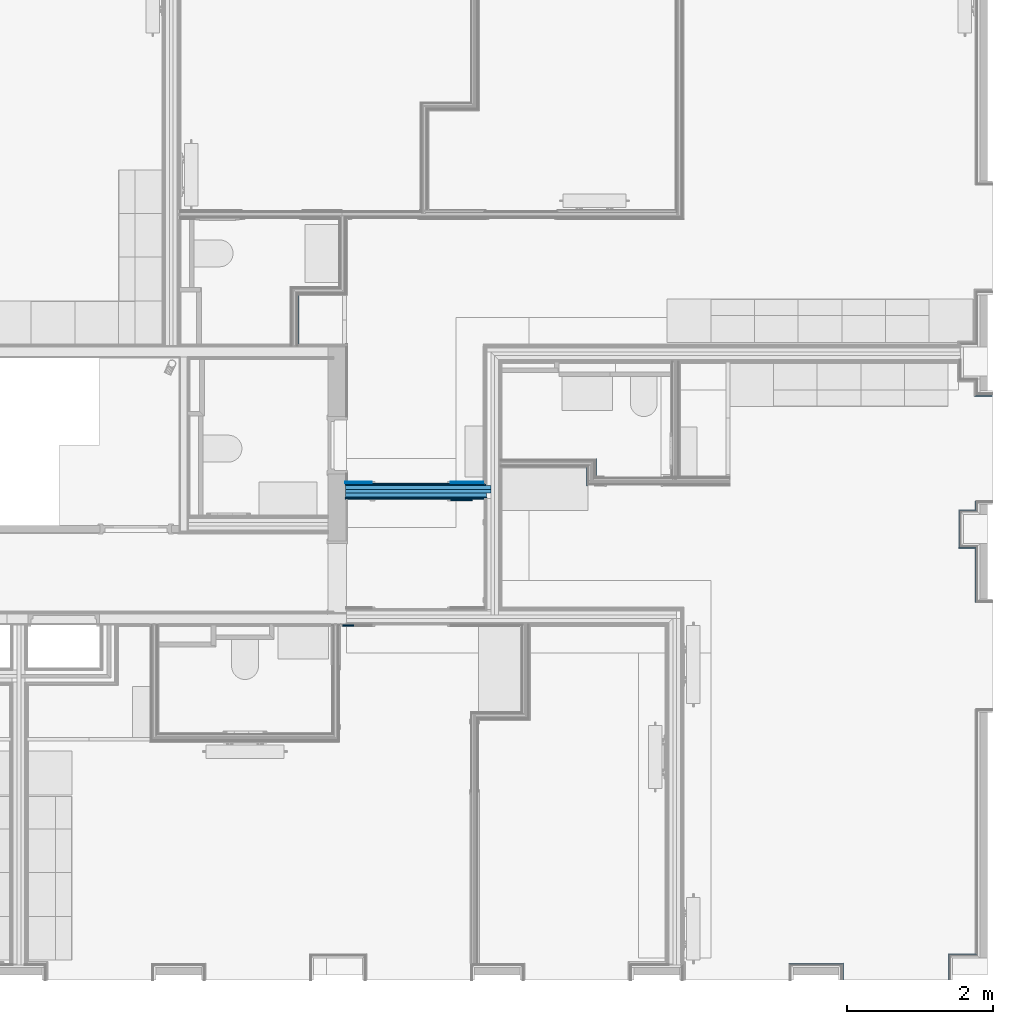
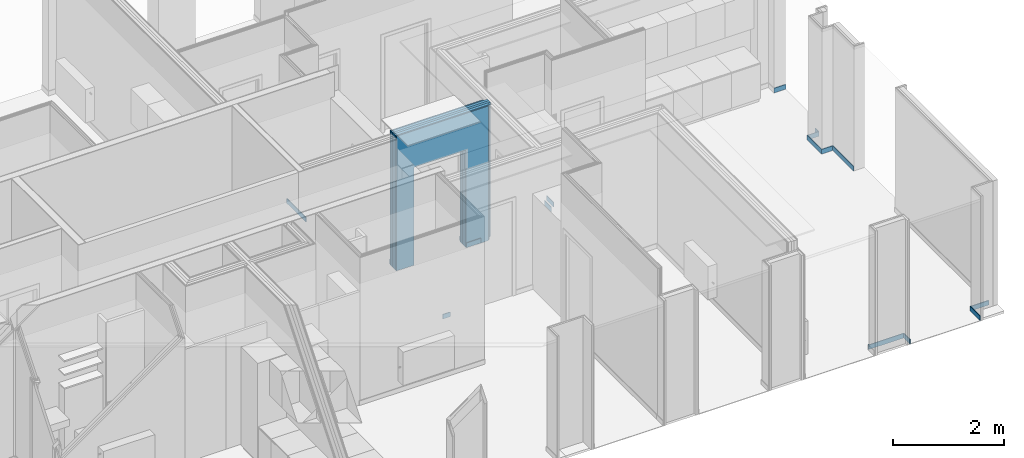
# One storey, part 40 of 65: 23 building element parts, 1 opening, 14 elements without a shape of their own.
"""IFC2X3 building model written with IfcOpenShell, lengths in metres."""

import ifcopenshell
import ifcopenshell.guid

model = None  # the IFC model being written
_history = None  # IfcOwnerHistory: only IFC2X3 demands one
_inside = {}  # id of a spatial element -> (the spatial element, [elements in it])
_under = {}  # id of a project, library or spatial element -> (it, [spatial elements below it])
_declared = {}  # id of a project -> (the project, [libraries it declares])
_typed = {}  # id of a type object -> (the type object, [elements of that type])
_made_of = {}  # id of a material, layer set ... -> (it, [elements and type objects made of it])


def new_model(schema):
    """Start an empty IFC model of exactly this schema.

    Asked for "IFC4X3", IfcOpenShell would pick the latest addendum, in which some entities
    have other attributes; the version numbers below select the first issue.
    IFC2X3 requires an IfcOwnerHistory on every rooted entity: one is made here for all.
    """
    global model, _history
    if schema == "IFC4X3":
        model = ifcopenshell.file(schema_version=(4, 3, 0, 0))
    else:
        model = ifcopenshell.file(schema=schema)
    _inside.clear()
    _under.clear()
    _declared.clear()
    _typed.clear()
    _made_of.clear()
    _history = None
    if model.schema == "IFC2X3":
        org = make("IfcOrganization", Name="unknown")
        user = make(
            "IfcPersonAndOrganization",
            ThePerson=make("IfcPerson", FamilyName="unknown"),
            TheOrganization=org,
        )
        app = make(
            "IfcApplication",
            ApplicationDeveloper=org,
            Version="unknown",
            ApplicationFullName="unknown",
            ApplicationIdentifier="unknown",
        )
        _history = make(
            "IfcOwnerHistory",
            OwningUser=user,
            OwningApplication=app,
            ChangeAction="ADDED",
            CreationDate=0,
        )
    return model


def make(cls, **values):
    """One entity of the class cls with the attributes given. An attribute that is None is left unset."""
    return model.create_entity(
        cls, **{name: value for name, value in values.items() if value is not None}
    )


def entity(cls, *values):
    """Any entity or typed value of the class cls, its attributes in the order of the schema. None: left unset."""
    e = model.create_entity(cls)
    for i, value in enumerate(values):
        if value is not None:
            e[i] = value
    return e


def rooted(cls, **values):
    """An entity with a GlobalId (a new one), such as an element, a storey or a relation."""
    return make(cls, GlobalId=ifcopenshell.guid.new(), OwnerHistory=_history, **values)


def si_unit(unit_type, name, prefix=None):
    """IfcSIUnit, for example si_unit("LENGTHUNIT", "METRE", prefix="MILLI")."""
    return make("IfcSIUnit", UnitType=unit_type, Prefix=prefix, Name=name)


def converted_unit(unit_type, name, factor, base, dimensions=None, offset=None):
    """IfcConversionBasedUnit, such as the inch: factor (a typed value) times the base unit."""
    return make(
        "IfcConversionBasedUnit"
        if offset is None
        else "IfcConversionBasedUnitWithOffset",
        ConversionOffset=offset,
        Dimensions=None
        if dimensions is None
        else entity("IfcDimensionalExponents", *dimensions),
        UnitType=unit_type,
        Name=name,
        ConversionFactor=make(
            "IfcMeasureWithUnit", ValueComponent=factor, UnitComponent=base
        ),
    )


def derived_unit(unit_type, elements):
    """IfcDerivedUnit: a product of units, each with its exponent."""
    return make(
        "IfcDerivedUnit",
        Elements=[
            make("IfcDerivedUnitElement", Unit=unit, Exponent=power)
            for unit, power in elements
        ],
        UnitType=unit_type,
    )


def money_unit(currency):
    """IfcMonetaryUnit."""
    return make("IfcMonetaryUnit", Currency=currency)


def assignment(units):
    """IfcUnitAssignment: the units of a project."""
    return None if units is None else make("IfcUnitAssignment", Units=units)


def point(xyz):
    """IfcCartesianPoint."""
    return None if xyz is None else make("IfcCartesianPoint", Coordinates=xyz)


def direction(xyz):
    """IfcDirection."""
    return None if xyz is None else make("IfcDirection", DirectionRatios=xyz)


def frame(location, z_axis=None, x_axis=None):
    """IfcAxis2Placement3D, a coordinate frame: its origin and axes. An axis left out is left unset."""
    return make(
        "IfcAxis2Placement3D",
        Location=point(location),
        Axis=direction(z_axis),
        RefDirection=direction(x_axis),
    )


def frame_2d(location, x_axis=None):
    """IfcAxis2Placement2D, a coordinate frame in the plane: its origin and x axis."""
    return make(
        "IfcAxis2Placement2D", Location=point(location), RefDirection=direction(x_axis)
    )


def origin_with_axes():
    """The frame at (0, 0, 0) with the z axis (0, 0, 1) and the x axis (1, 0, 0) written out."""
    return frame((0.0, 0.0, 0.0), z_axis=(0.0, 0.0, 1.0), x_axis=(1.0, 0.0, 0.0))


def place(relative_to, where):
    """IfcLocalPlacement: puts the frame where relative to a parent placement (None: the world)."""
    return make(
        "IfcLocalPlacement", PlacementRelTo=relative_to, RelativePlacement=where
    )


def context(
    kind, dimensions, precision=None, world=None, true_north=None, identifier=None
):
    """IfcGeometricRepresentationContext, for example the 3D "Model" context."""
    return make(
        "IfcGeometricRepresentationContext",
        ContextIdentifier=identifier,
        ContextType=kind,
        CoordinateSpaceDimension=dimensions,
        Precision=precision,
        WorldCoordinateSystem=world,
        TrueNorth=true_north,
    )


def subcontext(parent, identifier, kind, view, scale=None):
    """IfcGeometricRepresentationSubContext, for example "Body" below "Model"."""
    return make(
        "IfcGeometricRepresentationSubContext",
        ContextIdentifier=identifier,
        ContextType=kind,
        ParentContext=parent,
        TargetScale=scale,
        TargetView=view,
    )


def project(units=None, contexts=None):
    """IfcProject with its units and contexts."""
    return rooted(
        "IfcProject",
        Name="project",
        RepresentationContexts=contexts,
        UnitsInContext=assignment(units),
    )


def spatial(cls, under=None, at=None, **own):
    """A site, building, storey or space (cls), placed at a placement, below another one or the project."""
    s = rooted(cls, ObjectPlacement=at, **own)
    if under is not None:
        _under.setdefault(under.id(), (under, []))[1].append(s)
    return s


def polyline(points):
    """IfcPolyline through the points."""
    return make("IfcPolyline", Points=[point(p) for p in points])


def profile(cls, at=None, kind="AREA", **sizes):
    """A parametric profile (cls). Its sizes go by their IFC names, for example OverallWidth=200.0."""
    return make(cls, ProfileType=kind, Position=at, **sizes)


def rectangle(**sizes):
    """IfcRectangleProfileDef."""
    return profile("IfcRectangleProfileDef", **sizes)


def outline(outer, holes=None, kind="AREA"):
    """IfcArbitraryClosedProfileDef: a profile drawn as a closed curve; with holes, ...WithVoids."""
    if holes is None:
        return make("IfcArbitraryClosedProfileDef", ProfileType=kind, OuterCurve=outer)
    return make(
        "IfcArbitraryProfileDefWithVoids",
        ProfileType=kind,
        OuterCurve=outer,
        InnerCurves=holes,
    )


def extrude(swept, where, along, depth):
    """IfcExtrudedAreaSolid: the profile swept, set in the frame where, extruded along a direction by depth."""
    return make(
        "IfcExtrudedAreaSolid",
        SweptArea=swept,
        Position=where,
        ExtrudedDirection=direction(along),
        Depth=depth,
    )


def shape(context_of_items, identifier, shape_type, items):
    """IfcShapeRepresentation: the items that make up one representation, for example the "Body"."""
    return make(
        "IfcShapeRepresentation",
        ContextOfItems=context_of_items,
        RepresentationIdentifier=identifier,
        RepresentationType=shape_type,
        Items=items,
    )


def material(Name=None, Category=None):
    """IfcMaterial."""
    return make("IfcMaterial", Name=Name, Category=Category)


def made_of(thing, what):
    """Note that an element or type object is made of a material, layer set ...; save() writes the relation."""
    if what is not None:
        _made_of.setdefault(what.id(), (what, []))[1].append(thing)
    return thing


def type_object(cls, material=None, **own):
    """A type object (cls), such as IfcWallType, which elements share."""
    return made_of(rooted(cls, **own), material)


def element(
    cls,
    number,
    at=None,
    inside=None,
    cuts=None,
    type_object=None,
    material=None,
    context=None,
    identifier="Body",
    shape_type=None,
    held_by="IfcProductDefinitionShape",
    body=None,
    shapes=None,
    **own,
):
    """One element of the class cls, such as IfcWall. Its Tag is "e" and its number.

    at: its placement. inside: the storey or other place that contains it. cuts: it is an
    opening in that element (IfcRelVoidsElement). A single representation is given by context,
    identifier, shape_type and body (its items); several are given by shapes. held_by: the class
    of the entity that holds the representations. save() writes the other relations.
    """
    e = rooted(cls, Tag="e%d" % number, ObjectPlacement=at, **own)
    if body is not None:
        shapes = [shape(context, identifier, shape_type, body)]
    if shapes is not None:
        e.Representation = make(held_by, Representations=shapes)
    if inside is not None:
        _inside.setdefault(inside.id(), (inside, []))[1].append(e)
    if cuts is not None:
        rooted(
            "IfcRelVoidsElement", RelatingBuildingElement=cuts, RelatedOpeningElement=e
        )
    if type_object is not None:
        _typed.setdefault(type_object.id(), (type_object, []))[1].append(e)
    return made_of(e, material)


def aggregate(whole, parts):
    """IfcRelAggregates: a whole, such as a stair, and the parts it consists of."""
    return rooted("IfcRelAggregates", RelatingObject=whole, RelatedObjects=parts)


def save(model, path):
    """Write the relations noted so far, then the file.

    IfcRelAggregates (storeys below a building ...), IfcRelContainedInSpatialStructure (elements
    in a storey), IfcRelDefinesByType, IfcRelAssociatesMaterial and IfcRelDeclares: one each for
    every whole, place, type object, material and project.
    """
    for whole, parts in _under.values():
        aggregate(whole, parts)
    for where, things in _inside.values():
        rooted(
            "IfcRelContainedInSpatialStructure",
            RelatedElements=things,
            RelatingStructure=where,
        )
    for kind, things in _typed.values():
        rooted("IfcRelDefinesByType", RelatedObjects=things, RelatingType=kind)
    for what, things in _made_of.values():
        rooted("IfcRelAssociatesMaterial", RelatedObjects=things, RelatingMaterial=what)
    for by, libraries in _declared.values():
        rooted("IfcRelDeclares", RelatingContext=by, RelatedDefinitions=libraries)
    model.write(path)


model = new_model("IFC2X3")

# Units and contexts
model_context = context("Model", 3, precision=1e-05, world=origin_with_axes(), true_north=direction((0.0, 1.0)))
body_context = subcontext(model_context, "Body", "Model", "MODEL_VIEW", scale=1.0)
ifc_project = project(units=[si_unit("LENGTHUNIT", "METRE"), si_unit("AREAUNIT", "SQUARE_METRE"), si_unit("VOLUMEUNIT", "CUBIC_METRE"), si_unit("ABSORBEDDOSEUNIT", "GRAY"), si_unit("AMOUNTOFSUBSTANCEUNIT", "MOLE"), si_unit("DOSEEQUIVALENTUNIT", "SIEVERT"), si_unit("ELECTRICCAPACITANCEUNIT", "FARAD"), si_unit("ELECTRICCHARGEUNIT", "COULOMB"), si_unit("ELECTRICCONDUCTANCEUNIT", "SIEMENS"), si_unit("ELECTRICCURRENTUNIT", "AMPERE"), si_unit("ELECTRICRESISTANCEUNIT", "OHM"), si_unit("ELECTRICVOLTAGEUNIT", "VOLT"), si_unit("ENERGYUNIT", "JOULE"), si_unit("FORCEUNIT", "NEWTON"), si_unit("FREQUENCYUNIT", "HERTZ"), si_unit("ILLUMINANCEUNIT", "LUX"), si_unit("INDUCTANCEUNIT", "HENRY"), si_unit("LUMINOUSFLUXUNIT", "LUMEN"), si_unit("LUMINOUSINTENSITYUNIT", "CANDELA"), si_unit("MAGNETICFLUXDENSITYUNIT", "TESLA"), si_unit("MAGNETICFLUXUNIT", "WEBER"), si_unit("MASSUNIT", "GRAM"), converted_unit("PLANEANGLEUNIT", "degree", entity("IfcReal", 0.0174532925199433), si_unit("PLANEANGLEUNIT", "RADIAN"), dimensions=[0, 0, 0, 0, 0, 0, 0]), si_unit("POWERUNIT", "WATT"), si_unit("PRESSUREUNIT", "PASCAL"), si_unit("RADIOACTIVITYUNIT", "BECQUEREL"), si_unit("SOLIDANGLEUNIT", "STERADIAN"), si_unit("THERMODYNAMICTEMPERATUREUNIT", "KELVIN"), si_unit("TIMEUNIT", "SECOND"), derived_unit("ACCELERATIONUNIT", [(si_unit("LENGTHUNIT", "METRE"), 1), (si_unit("TIMEUNIT", "SECOND"), -2)]), derived_unit("ANGULARVELOCITYUNIT", [(converted_unit("PLANEANGLEUNIT", "degree", entity("IfcReal", 0.0174532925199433), si_unit("PLANEANGLEUNIT", "RADIAN"), dimensions=[0, 0, 0, 0, 0, 0, 0]), 1), (si_unit("TIMEUNIT", "SECOND"), -1)]), derived_unit("CURVATUREUNIT", [(converted_unit("PLANEANGLEUNIT", "degree", entity("IfcReal", 0.0174532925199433), si_unit("PLANEANGLEUNIT", "RADIAN"), dimensions=[0, 0, 0, 0, 0, 0, 0]), 1), (si_unit("LENGTHUNIT", "METRE"), -1)]), derived_unit("DYNAMICVISCOSITYUNIT", [(si_unit("PRESSUREUNIT", "PASCAL"), 1), (si_unit("TIMEUNIT", "SECOND"), 1)]), derived_unit("HEATFLUXDENSITYUNIT", [(si_unit("POWERUNIT", "WATT"), 1), (si_unit("LENGTHUNIT", "METRE"), -2)]), derived_unit("HEATINGVALUEUNIT", [(si_unit("ENERGYUNIT", "JOULE"), 1), (si_unit("MASSUNIT", "GRAM"), -1)]), derived_unit("INTEGERCOUNTRATEUNIT", [(si_unit("TIMEUNIT", "SECOND"), -1)]), derived_unit("IONCONCENTRATIONUNIT", [(si_unit("MASSUNIT", "GRAM"), 1), (si_unit("VOLUMEUNIT", "CUBIC_METRE"), -1)]), derived_unit("ISOTHERMALMOISTURECAPACITYUNIT", [(si_unit("VOLUMEUNIT", "CUBIC_METRE"), 1), (si_unit("MASSUNIT", "GRAM"), -1)]), derived_unit("KINEMATICVISCOSITYUNIT", [(si_unit("AREAUNIT", "SQUARE_METRE"), 1), (si_unit("TIMEUNIT", "SECOND"), -1)]), derived_unit("LINEARFORCEUNIT", [(si_unit("FORCEUNIT", "NEWTON"), 1), (si_unit("LENGTHUNIT", "METRE"), -1)]), derived_unit("LINEARMOMENTUNIT", [(si_unit("FORCEUNIT", "NEWTON"), 1), (si_unit("LENGTHUNIT", "METRE"), -1)]), derived_unit("LINEARSTIFFNESSUNIT", [(si_unit("FORCEUNIT", "NEWTON"), 1), (si_unit("LENGTHUNIT", "METRE"), -1)]), derived_unit("LINEARVELOCITYUNIT", [(si_unit("LENGTHUNIT", "METRE"), 1), (si_unit("TIMEUNIT", "SECOND"), -1)]), derived_unit("LUMINOUSINTENSITYDISTRIBUTIONUNIT", [(si_unit("LUMINOUSINTENSITYUNIT", "CANDELA"), 1), (si_unit("LUMINOUSFLUXUNIT", "LUMEN"), -1)]), derived_unit("MASSDENSITYUNIT", [(si_unit("MASSUNIT", "GRAM"), 1), (si_unit("VOLUMEUNIT", "CUBIC_METRE"), -1)]), derived_unit("MASSFLOWRATEUNIT", [(si_unit("MASSUNIT", "GRAM"), 1), (si_unit("TIMEUNIT", "SECOND"), -1)]), derived_unit("MASSPERLENGTHUNIT", [(si_unit("MASSUNIT", "GRAM"), 1), (si_unit("LENGTHUNIT", "METRE"), -1)]), derived_unit("MODULUSOFELASTICITYUNIT", [(si_unit("FORCEUNIT", "NEWTON"), 1), (si_unit("AREAUNIT", "SQUARE_METRE"), -1)]), derived_unit("MODULUSOFLINEARSUBGRADEREACTIONUNIT", [(si_unit("FORCEUNIT", "NEWTON"), 1), (si_unit("LENGTHUNIT", "METRE"), -2)]), derived_unit("MODULUSOFROTATIONALSUBGRADEREACTIONUNIT", [(si_unit("FORCEUNIT", "NEWTON"), 1), (si_unit("LENGTHUNIT", "METRE"), 1)]), derived_unit("MODULUSOFSUBGRADEREACTIONUNIT", [(si_unit("FORCEUNIT", "NEWTON"), 1), (si_unit("VOLUMEUNIT", "CUBIC_METRE"), -1)]), derived_unit("MOISTUREDIFFUSIVITYUNIT", [(si_unit("VOLUMEUNIT", "CUBIC_METRE"), 1), (si_unit("TIMEUNIT", "SECOND"), -1)]), derived_unit("MOLECULARWEIGHTUNIT", [(si_unit("MASSUNIT", "GRAM"), 1), (si_unit("AMOUNTOFSUBSTANCEUNIT", "MOLE"), -1)]), derived_unit("PLANARFORCEUNIT", [(si_unit("FORCEUNIT", "NEWTON"), 1), (si_unit("LENGTHUNIT", "METRE"), -2)]), derived_unit("ROTATIONALFREQUENCYUNIT", [(si_unit("TIMEUNIT", "SECOND"), -1)]), derived_unit("ROTATIONALMASSUNIT", [(si_unit("MASSUNIT", "GRAM"), 1), (si_unit("LENGTHUNIT", "METRE"), 2)]), derived_unit("ROTATIONALSTIFFNESSUNIT", [(si_unit("FORCEUNIT", "NEWTON"), 1), (si_unit("LENGTHUNIT", "METRE"), 1), (converted_unit("PLANEANGLEUNIT", "degree", entity("IfcReal", 0.0174532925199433), si_unit("PLANEANGLEUNIT", "RADIAN"), dimensions=[0, 0, 0, 0, 0, 0, 0]), -1)]), derived_unit("SECTIONAREAINTEGRALUNIT", [(si_unit("LENGTHUNIT", "METRE"), 5)]), derived_unit("SECTIONMODULUSUNIT", [(si_unit("LENGTHUNIT", "METRE"), 3)]), derived_unit("SHEARMODULUSUNIT", [(si_unit("FORCEUNIT", "NEWTON"), 1), (si_unit("AREAUNIT", "SQUARE_METRE"), -1)]), derived_unit("SOUNDPOWERUNIT", [(si_unit("ENERGYUNIT", "JOULE"), 1), (si_unit("TIMEUNIT", "SECOND"), -1)]), derived_unit("SPECIFICHEATCAPACITYUNIT", [(si_unit("FORCEUNIT", "NEWTON"), 1), (si_unit("MASSUNIT", "GRAM"), -1), (si_unit("THERMODYNAMICTEMPERATUREUNIT", "KELVIN"), -1)]), derived_unit("TEMPERATUREGRADIENTUNIT", [(si_unit("THERMODYNAMICTEMPERATUREUNIT", "KELVIN"), 1), (si_unit("LENGTHUNIT", "METRE"), -1)]), derived_unit("THERMALADMITTANCEUNIT", [(si_unit("POWERUNIT", "WATT"), 1), (si_unit("AREAUNIT", "SQUARE_METRE"), -1), (si_unit("THERMODYNAMICTEMPERATUREUNIT", "KELVIN"), -1)]), derived_unit("THERMALCONDUCTANCEUNIT", [(si_unit("POWERUNIT", "WATT"), 1), (si_unit("LENGTHUNIT", "METRE"), -1), (si_unit("THERMODYNAMICTEMPERATUREUNIT", "KELVIN"), -1)]), derived_unit("THERMALEXPANSIONCOEFFICIENTUNIT", [(si_unit("THERMODYNAMICTEMPERATUREUNIT", "KELVIN"), -1)]), derived_unit("THERMALRESISTANCEUNIT", [(si_unit("AREAUNIT", "SQUARE_METRE"), 1), (si_unit("POWERUNIT", "WATT"), -1)]), derived_unit("THERMALTRANSMITTANCEUNIT", [(si_unit("POWERUNIT", "WATT"), 1), (si_unit("AREAUNIT", "SQUARE_METRE"), -1), (si_unit("THERMODYNAMICTEMPERATUREUNIT", "KELVIN"), -1)]), derived_unit("TORQUEUNIT", [(si_unit("FORCEUNIT", "NEWTON"), 1), (si_unit("LENGTHUNIT", "METRE"), 1)]), derived_unit("VAPORPERMEABILITYUNIT", [(si_unit("MASSUNIT", "GRAM"), 1), (si_unit("TIMEUNIT", "SECOND"), -1)]), derived_unit("VOLUMETRICFLOWRATEUNIT", [(si_unit("VOLUMEUNIT", "CUBIC_METRE"), 1), (si_unit("TIMEUNIT", "SECOND"), -1)]), derived_unit("WARPINGCONSTANTUNIT", [(si_unit("LENGTHUNIT", "METRE"), 6)]), derived_unit("WARPINGMOMENTUNIT", [(si_unit("FORCEUNIT", "NEWTON"), 1), (si_unit("LENGTHUNIT", "METRE"), 2)]), money_unit("GBP")], contexts=[model_context])

# Site, building, storey
site_placement = place(None, origin_with_axes())
site = spatial("IfcSite", under=ifc_project, at=site_placement, Name="Site", CompositionType="ELEMENT")
building_placement = place(site_placement, origin_with_axes())
building = spatial("IfcBuilding", under=site, at=building_placement, Name="Building01", CompositionType="ELEMENT")
storey_placement = place(building_placement, frame((0.0, 0.0, 8.64), z_axis=(0.0, 0.0, 1.0), x_axis=(1.0, 0.0, 0.0)))
storey = spatial("IfcBuildingStorey", under=building, at=storey_placement, Name="2F", CompositionType="ELEMENT", Elevation=8.64)

# Wall, building element part
wall_type_1 = type_object("IfcWallType", Name="SHE_A-Walls_Type06d_ExternalWallInsulation_48mm", PredefinedType="NOTDEFINED")
wall_1_placement = place(storey_placement, frame((24.143, 0.27, 0.0), z_axis=(0.0, 0.0, 1.0), x_axis=(1.0, 0.0, 0.0)))
wall_1 = element("IfcWall", 1, at=wall_1_placement, inside=storey, type_object=wall_type_1, Name="6D", ObjectType="SHE_A-Walls_Type06d_ExternalWallInsulation_48mm")
ifc_material_1 = material(Name="A_BSUK_Walls_Timber")
building_element_part_1_placement = place(wall_1_placement, origin_with_axes())
building_element_part_1 = element("IfcBuildingElementPart", 2, at=building_element_part_1_placement, material=ifc_material_1, Name="3", context=body_context, shape_type="SweptSolid", body=[
    extrude(outline(polyline([(0.687, 0.063), (-0.063, 0.063), (-0.048, 0.048), (0.672, 0.048), (0.687, 0.063)])), frame((0.0, 0.0, 0.015), z_axis=(0.0, 0.0, 1.0), x_axis=(1.0, 0.0, 0.0)), (0.0, 0.0, 1.0), 0.1),
])
aggregate(wall_1, [building_element_part_1])

wall_2_placement = place(storey_placement, frame((24.767, 0.27, 0.0), z_axis=(0.0, 0.0, 1.0), x_axis=(0.0, -1.0, 0.0)))
wall_2 = element("IfcWall", 3, at=wall_2_placement, inside=storey, type_object=wall_type_1, Name="6D", ObjectType="SHE_A-Walls_Type06d_ExternalWallInsulation_48mm")
building_element_part_2_placement = place(wall_2_placement, origin_with_axes())
building_element_part_2 = element("IfcBuildingElementPart", 4, at=building_element_part_2_placement, material=ifc_material_1, Name="3", context=body_context, shape_type="SweptSolid", body=[
    extrude(outline(polyline([(-0.063, 0.063), (-0.048, 0.048), (0.17, 0.048), (0.17, 0.063), (-0.063, 0.063)])), frame((0.0, 0.0, 0.015), z_axis=(0.0, 0.0, 1.0), x_axis=(1.0, 0.0, 0.0)), (0.0, 0.0, 1.0), 0.1),
])
aggregate(wall_2, [building_element_part_2])

wall_3_placement = place(storey_placement, frame((26.333, 0.1, 0.0), z_axis=(0.0, 0.0, 1.0), x_axis=(0.0, 1.0, 0.0)))
wall_3 = element("IfcWall", 5, at=wall_3_placement, inside=storey, type_object=wall_type_1, Name="6D", ObjectType="SHE_A-Walls_Type06d_ExternalWallInsulation_48mm")
building_element_part_3_placement = place(wall_3_placement, origin_with_axes())
building_element_part_3 = element("IfcBuildingElementPart", 6, at=building_element_part_3_placement, material=ifc_material_1, Name="3", context=body_context, shape_type="SweptSolid", body=[
    extrude(outline(polyline([(0.363, 0.063), (0.0, 0.063), (0.0, 0.048), (0.348, 0.048), (0.363, 0.063)])), frame((0.0, 0.0, 0.015), z_axis=(0.0, 0.0, 1.0), x_axis=(1.0, 0.0, 0.0)), (0.0, 0.0, 1.0), 0.1),
])
aggregate(wall_3, [building_element_part_3])

wall_4_placement = place(storey_placement, frame((26.333, 0.4, 0.0), z_axis=(0.0, 0.0, 1.0), x_axis=(1.0, 0.0, 0.0)))
wall_4 = element("IfcWall", 7, at=wall_4_placement, inside=storey, type_object=wall_type_1, Name="6D", ObjectType="SHE_A-Walls_Type06d_ExternalWallInsulation_48mm")
building_element_part_4_placement = place(wall_4_placement, origin_with_axes())
building_element_part_4 = element("IfcBuildingElementPart", 8, at=building_element_part_4_placement, material=ifc_material_1, Name="3", context=body_context, shape_type="SweptSolid", body=[
    extrude(outline(polyline([(0.314, 0.063), (-0.063, 0.063), (-0.048, 0.048), (0.329, 0.048), (0.314, 0.063)])), frame((0.0, 0.0, 0.015), z_axis=(0.0, 0.0, 1.0), x_axis=(1.0, 0.0, 0.0)), (0.0, 0.0, 1.0), 0.1),
])
aggregate(wall_4, [building_element_part_4])

wall_5_placement = place(storey_placement, frame((26.71, 5.34018, 0.0), z_axis=(0.0, 0.0, 1.0), x_axis=(0.0, 1.0, 0.0)))
wall_5 = element("IfcWall", 9, at=wall_5_placement, inside=storey, type_object=wall_type_1, Name="6D", ObjectType="SHE_A-Walls_Type06d_ExternalWallInsulation_48mm")
building_element_part_5_placement = place(wall_5_placement, origin_with_axes())
building_element_part_5 = element("IfcBuildingElementPart", 10, at=building_element_part_5_placement, material=ifc_material_1, Name="3", context=body_context, shape_type="SweptSolid", body=[
    extrude(outline(polyline([(0.69682, 0.063), (-0.048, 0.063), (-0.048, 0.048), (0.71182, 0.048), (0.69682, 0.063)])), frame((0.0, 0.0, 0.015), z_axis=(0.0, 0.0, 1.0), x_axis=(1.0, 0.0, 0.0)), (0.0, 0.0, 1.0), 0.1),
])
aggregate(wall_5, [building_element_part_5])

wall_6_placement = place(storey_placement, frame((26.71, 6.1, 0.0), z_axis=(0.0, 0.0, 1.0), x_axis=(-1.0, 0.0, 0.0)))
wall_6 = element("IfcWall", 11, at=wall_6_placement, inside=storey, type_object=wall_type_1, Name="6D", ObjectType="SHE_A-Walls_Type06d_ExternalWallInsulation_48mm")
building_element_part_6_placement = place(wall_6_placement, origin_with_axes())
building_element_part_6 = element("IfcBuildingElementPart", 12, at=building_element_part_6_placement, material=ifc_material_1, Name="3", context=body_context, shape_type="SweptSolid", body=[
    extrude(outline(polyline([(0.293, 0.063), (0.063, 0.063), (0.048, 0.048), (0.278, 0.048), (0.293, 0.063)])), frame((0.0, 0.0, 0.015), z_axis=(0.0, 0.0, 1.0), x_axis=(1.0, 0.0, 0.0)), (0.0, 0.0, 1.0), 0.1),
])
aggregate(wall_6, [building_element_part_6])

wall_7_placement = place(storey_placement, frame((26.48, 6.1, 0.0), z_axis=(0.0, 0.0, 1.0), x_axis=(0.0, 1.0, 0.0)))
wall_7 = element("IfcWall", 13, at=wall_7_placement, inside=storey, type_object=wall_type_1, Name="6D", ObjectType="SHE_A-Walls_Type06d_ExternalWallInsulation_48mm")
building_element_part_7_placement = place(wall_7_placement, origin_with_axes())
building_element_part_7 = element("IfcBuildingElementPart", 14, at=building_element_part_7_placement, material=ifc_material_1, Name="3", context=body_context, shape_type="SweptSolid", body=[
    extrude(outline(polyline([(0.463, 0.063), (-0.063, 0.063), (-0.048, 0.048), (0.448, 0.048), (0.463, 0.063)])), frame((0.0, 0.0, 0.015), z_axis=(0.0, 0.0, 1.0), x_axis=(1.0, 0.0, 0.0)), (0.0, 0.0, 1.0), 0.1),
])
aggregate(wall_7, [building_element_part_7])

wall_8_placement = place(storey_placement, frame((26.48, 6.5, 0.0), z_axis=(0.0, 0.0, 1.0), x_axis=(1.0, 0.0, 0.0)))
wall_8 = element("IfcWall", 15, at=wall_8_placement, inside=storey, type_object=wall_type_1, Name="6D", ObjectType="SHE_A-Walls_Type06d_ExternalWallInsulation_48mm")
building_element_part_8_placement = place(wall_8_placement, origin_with_axes())
building_element_part_8 = element("IfcBuildingElementPart", 16, at=building_element_part_8_placement, material=ifc_material_1, Name="3", context=body_context, shape_type="SweptSolid", body=[
    extrude(outline(polyline([(0.167, 0.063), (-0.063, 0.063), (-0.048, 0.048), (0.182, 0.048), (0.167, 0.063)])), frame((0.0, 0.0, 0.015), z_axis=(0.0, 0.0, 1.0), x_axis=(1.0, 0.0, 0.0)), (0.0, 0.0, 1.0), 0.1),
])
aggregate(wall_8, [building_element_part_8])

wall_9_placement = place(storey_placement, frame((26.71, 6.5, 0.0), z_axis=(0.0, 0.0, 1.0), x_axis=(0.0, 1.0, 0.0)))
wall_9 = element("IfcWall", 17, at=wall_9_placement, inside=storey, type_object=wall_type_1, Name="6D", ObjectType="SHE_A-Walls_Type06d_ExternalWallInsulation_48mm")
building_element_part_9_placement = place(wall_9_placement, origin_with_axes())
building_element_part_9 = element("IfcBuildingElementPart", 18, at=building_element_part_9_placement, material=ifc_material_1, Name="3", context=body_context, shape_type="SweptSolid", body=[
    extrude(outline(polyline([(0.063, 0.063), (0.048, 0.048), (0.182326, 0.048), (0.182326, 0.063), (0.063, 0.063)])), frame((0.0, 0.0, 0.015), z_axis=(0.0, 0.0, 1.0), x_axis=(1.0, 0.0, 0.0)), (0.0, 0.0, 1.0), 0.1),
])
aggregate(wall_9, [building_element_part_9])

wall_type_2 = type_object("IfcWallType", Name="SHE_A-Walls_Type05a_Partition_95mm_tall", PredefinedType="NOTDEFINED")
wall_10_placement = place(storey_placement, frame((17.273132, 8.82, 0.0), z_axis=(0.0, 0.0, 1.0), x_axis=(0.0, 1.0, 0.0)))
wall_10 = element("IfcWall", 19, at=wall_10_placement, inside=storey, type_object=wall_type_2, Name="5A", ObjectType="SHE_A-Walls_Type05a_Partition_95mm_tall")
building_element_part_10_placement = place(wall_10_placement, origin_with_axes())
building_element_part_10 = element("IfcBuildingElementPart", 20, at=building_element_part_10_placement, material=ifc_material_1, Name="1", context=body_context, shape_type="SweptSolid", body=[
    extrude(outline(polyline([(0.705, -0.06), (0.0, -0.06), (0.0, -0.075), (0.69, -0.075), (0.705, -0.06)])), frame((0.0, 0.0, 0.015), z_axis=(0.0, 0.0, 1.0), x_axis=(1.0, 0.0, 0.0)), (0.0, 0.0, 1.0), 0.1),
])
aggregate(wall_10, [building_element_part_10])

# Wall, opening, building element parts
wall_type_3 = type_object("IfcWallType", Name="SHE_A-Walls_Type01c_Partywall_225mm_twin_tall", PredefinedType="NOTDEFINED")
wall_11_placement = place(storey_placement, frame((17.985, 6.793, 0.0), z_axis=(0.0, 0.0, 1.0), x_axis=(1.0, 0.0, 0.0)))
wall_11 = element("IfcWall", 21, at=wall_11_placement, inside=storey, type_object=wall_type_3, Name="1C", ObjectType="SHE_A-Walls_Type01c_Partywall_225mm_twin_tall")
opening_placement = place(wall_11_placement, frame((0.368, -0.103, -0.03), z_axis=(0.0, 0.0, 1.0), x_axis=(1.0, 0.0, 0.0)))
element("IfcOpeningElement", 22, at=opening_placement, cuts=wall_11, Name="Opening", ObjectType="Opening", context=body_context, shape_type="SweptSolid", body=[
    extrude(rectangle(XDim=2.142, YDim=1.081, at=frame_2d((-0.5405, 1.071), x_axis=(0.0, -1.0))), frame((0.0, 0.0, 0.0), z_axis=(0.0, 1.0, 0.0), x_axis=(-1.0, 0.0, 0.0)), (0.0, 0.0, 1.0), 0.255),
    extrude(rectangle(XDim=1.084, YDim=2.172, at=frame_2d((-0.539, 1.086), x_axis=(1.0, 0.0))), frame((0.0, 0.015, 0.0), z_axis=(0.0, 1.0, 0.0), x_axis=(-1.0, 0.0, 0.0)), (0.0, 0.0, 1.0), 0.015),
    extrude(rectangle(XDim=2.142, YDim=1.084, at=frame_2d((-0.542, 1.071), x_axis=(0.0, -1.0))), frame((0.0, 0.0, 0.0), z_axis=(0.0, 1.0, 0.0), x_axis=(-1.0, 0.0, 0.0)), (0.0, 0.0, 1.0), 0.015),
    extrude(outline(polyline([(0.0, 0.03), (0.003, 0.03), (0.003, 2.172), (-1.081, 2.172), (-1.081, 2.142), (-1.084, 2.142), (-1.084, 0.0), (0.0, 0.0), (0.0, 0.03)])), frame((0.0, 0.03, 0.0), z_axis=(0.0, 1.0, 0.0), x_axis=(-1.0, 0.0, 0.0)), (0.0, 0.0, 1.0), 0.015),
    extrude(outline(polyline([(0.0, 0.03), (0.003, 0.03), (0.003, 2.172), (-1.081, 2.172), (-1.081, 2.142), (-1.084, 2.142), (-1.084, 0.0), (0.0, 0.0), (0.0, 0.03)])), frame((0.0, 0.045, 0.0), z_axis=(0.0, 1.0, 0.0), x_axis=(-1.0, 0.0, 0.0)), (0.0, 0.0, 1.0), 0.058),
    extrude(outline(polyline([(0.0, 0.03), (0.003, 0.03), (0.003, 2.172), (-1.081, 2.172), (-1.081, 2.142), (-1.084, 2.142), (-1.084, 0.0), (0.0, 0.0), (0.0, 0.03)])), frame((0.0, 0.103, 0.0), z_axis=(0.0, 1.0, 0.0), x_axis=(-1.0, 0.0, 0.0)), (0.0, 0.0, 1.0), 0.05),
    extrude(outline(polyline([(0.0, 0.03), (0.003, 0.03), (0.003, 2.172), (-1.081, 2.172), (-1.081, 2.142), (-1.084, 2.142), (-1.084, 0.0), (0.0, 0.0), (0.0, 0.03)])), frame((0.0, 0.153, 0.0), z_axis=(0.0, 1.0, 0.0), x_axis=(-1.0, 0.0, 0.0)), (0.0, 0.0, 1.0), 0.057),
    extrude(outline(polyline([(0.0, 0.03), (0.003, 0.03), (0.003, 2.172), (-1.081, 2.172), (-1.081, 2.142), (-1.084, 2.142), (-1.084, 0.0), (0.0, 0.0), (0.0, 0.03)])), frame((0.0, 0.21, 0.0), z_axis=(0.0, 1.0, 0.0), x_axis=(-1.0, 0.0, 0.0)), (0.0, 0.0, 1.0), 0.015),
    extrude(rectangle(XDim=1.084, YDim=2.172, at=frame_2d((-0.539, 1.086), x_axis=(1.0, 0.0))), frame((0.0, 0.225, 0.0), z_axis=(0.0, 1.0, 0.0), x_axis=(-1.0, 0.0, 0.0)), (0.0, 0.0, 1.0), 0.015),
    extrude(outline(polyline([(0.0, 0.03), (0.003, 0.03), (0.003, 2.172), (-1.081, 2.172), (-1.081, 2.142), (-1.084, 2.142), (-1.084, 0.0), (0.0, 0.0), (0.0, 0.03)])), frame((0.0, 0.24, 0.0), z_axis=(0.0, 1.0, 0.0), x_axis=(-1.0, 0.0, 0.0)), (0.0, 0.0, 1.0), 0.015),
])
placement_1 = place(wall_11_placement, origin_with_axes())
building_element_part_11 = element("IfcBuildingElementPart", 23, at=placement_1, material=ifc_material_1, Name="1", context=body_context, shape_type="SweptSolid", body=[
    extrude(rectangle(XDim=0.401969, YDim=0.015, at=frame_2d((1.544984, -0.0955), x_axis=(-1.0, 0.0))), frame((0.0, 0.0, 0.015), z_axis=(0.0, 0.0, 1.0), x_axis=(1.0, 0.0, 0.0)), (0.0, 0.0, 1.0), 0.1),
])
ifc_material_2 = material(Name="A_BSUK_WallInternal_Finishes_Plasterboard")
building_element_part_12 = element("IfcBuildingElementPart", 24, at=placement_1, material=ifc_material_2, Name="2", context=body_context, shape_type="SweptSolid", body=[
    extrude(rectangle(XDim=1.912661, YDim=0.015, at=frame_2d((0.956331, -0.0805), x_axis=(-1.0, 0.0))), origin_with_axes(), (0.0, 0.0, 1.0), 2.95),
])
building_element_part_13 = element("IfcBuildingElementPart", 25, at=placement_1, material=ifc_material_2, Name="3", context=body_context, shape_type="SweptSolid", body=[
    extrude(rectangle(XDim=1.942661, YDim=0.015, at=frame_2d((0.971331, -0.0655), x_axis=(-1.0, 0.0))), origin_with_axes(), (0.0, 0.0, 1.0), 2.95),
])
ifc_material_3 = material(Name="Air Cavity")
building_element_part_14 = element("IfcBuildingElementPart", 26, at=placement_1, material=ifc_material_3, Name="4", context=body_context, shape_type="SweptSolid", body=[
    extrude(rectangle(XDim=1.942661, YDim=0.058, at=frame_2d((0.971331, -0.029), x_axis=(-1.0, 0.0))), origin_with_axes(), (0.0, 0.0, 1.0), 2.95),
])
ifc_material_4 = material(Name="A_BSUK_Insulation")
building_element_part_15 = element("IfcBuildingElementPart", 27, at=placement_1, material=ifc_material_4, Name="5", context=body_context, shape_type="SweptSolid", body=[
    extrude(rectangle(XDim=2.000661, YDim=0.05, at=frame_2d((1.000331, 0.025), x_axis=(-1.0, 0.0))), origin_with_axes(), (0.0, 0.0, 1.0), 2.95),
])
building_element_part_16 = element("IfcBuildingElementPart", 28, at=placement_1, material=ifc_material_3, Name="6", context=body_context, shape_type="SweptSolid", body=[
    extrude(rectangle(XDim=2.000661, YDim=0.057, at=frame_2d((1.000331, 0.0785), x_axis=(-1.0, 0.0))), origin_with_axes(), (0.0, 0.0, 1.0), 2.95),
])
building_element_part_17 = element("IfcBuildingElementPart", 29, at=placement_1, material=ifc_material_2, Name="7", context=body_context, shape_type="SweptSolid", body=[
    extrude(rectangle(XDim=1.927661, YDim=0.015, at=frame_2d((0.963831, 0.1145), x_axis=(-1.0, 0.0))), origin_with_axes(), (0.0, 0.0, 1.0), 2.95),
])
building_element_part_18 = element("IfcBuildingElementPart", 30, at=placement_1, material=ifc_material_2, Name="8", context=body_context, shape_type="SweptSolid", body=[
    extrude(rectangle(XDim=1.912661, YDim=0.015, at=frame_2d((0.956331, 0.1295), x_axis=(-1.0, 0.0))), origin_with_axes(), (0.0, 0.0, 1.0), 2.95),
])
building_element_part_19 = element("IfcBuildingElementPart", 31, at=placement_1, material=ifc_material_1, Name="9", context=body_context, shape_type="SweptSolid", body=[
    extrude(rectangle(XDim=1.897661, YDim=0.015, at=frame_2d((0.948831, 0.1445), x_axis=(-1.0, 0.0))), frame((0.0, 0.0, 0.015), z_axis=(0.0, 0.0, 1.0), x_axis=(1.0, 0.0, 0.0)), (0.0, 0.0, 1.0), 0.1),
])
aggregate(wall_11, [building_element_part_11, building_element_part_12, building_element_part_13, building_element_part_14, building_element_part_15, building_element_part_16, building_element_part_17, building_element_part_18, building_element_part_19])

# Wall, building element parts
wall_12_placement = place(storey_placement, frame((21.382661, 6.965, 0.0), z_axis=(0.0, 0.0, 1.0), x_axis=(0.0, 1.0, 0.0)))
wall_12 = element("IfcWall", 32, at=wall_12_placement, inside=storey, type_object=wall_type_2, Name="5A", ObjectType="SHE_A-Walls_Type05a_Partition_95mm_tall")
placement_2 = place(wall_12_placement, origin_with_axes())
building_element_part_20 = element("IfcBuildingElementPart", 33, at=placement_2, material=ifc_material_1, Name="1", context=body_context, shape_type="SweptSolid", body=[
    extrude(outline(polyline([(0.285, -0.035), (0.035, -0.035), (0.05, -0.05), (0.3, -0.05), (0.285, -0.035)])), frame((0.0, 0.0, 0.015), z_axis=(0.0, 0.0, 1.0), x_axis=(1.0, 0.0, 0.0)), (0.0, 0.0, 1.0), 0.1),
])
building_element_part_21 = element("IfcBuildingElementPart", 34, at=placement_2, material=ifc_material_1, Name="7", context=body_context, shape_type="SweptSolid", body=[
    extrude(outline(polyline([(0.175, 0.075), (-0.075, 0.075), (-0.06, 0.06), (0.19, 0.06), (0.175, 0.075)])), frame((0.0, 0.0, 0.015), z_axis=(0.0, 0.0, 1.0), x_axis=(1.0, 0.0, 0.0)), (0.0, 0.0, 1.0), 0.1),
])
aggregate(wall_12, [building_element_part_20, building_element_part_21])

# Wall, building element part
wall_type_4 = type_object("IfcWallType", Name="SHE_A-Walls_Type03a_BlockworkWall_170mm", PredefinedType="NOTDEFINED")
wall_13_placement = place(storey_placement, frame((9.075, 4.995, 0.0), z_axis=(0.0, 0.0, 1.0), x_axis=(1.0, 0.0, 0.0)))
wall_13 = element("IfcWall", 35, at=wall_13_placement, inside=storey, type_object=wall_type_4, Name="4B", ObjectType="SHE_A-Walls_Type03a_BlockworkWall_170mm")
building_element_part_22_placement = place(wall_13_placement, origin_with_axes())
building_element_part_22 = element("IfcBuildingElementPart", 36, at=building_element_part_22_placement, material=ifc_material_1, Name="3", context=body_context, shape_type="SweptSolid", body=[
    extrude(rectangle(XDim=0.15, YDim=0.015, at=frame_2d((8.95, -0.0225), x_axis=(-1.0, 0.0))), frame((0.0, 0.0, 0.015), z_axis=(0.0, 0.0, 1.0), x_axis=(1.0, 0.0, 0.0)), (0.0, 0.0, 1.0), 0.1),
])
aggregate(wall_13, [building_element_part_22])

wall_type_5 = type_object("IfcWallType", Name="SHE_A-Walls_Type06f_ExternalWallInsulation_48+15mm", PredefinedType="NOTDEFINED")
wall_14_placement = place(storey_placement, frame((26.71, 8.200326, 0.0), z_axis=(0.0, 0.0, 1.0), x_axis=(1.0, 0.0, 0.0)))
wall_14 = element("IfcWall", 37, at=wall_14_placement, inside=storey, type_object=wall_type_5, Name="6F", ObjectType="SHE_A-Walls_Type06f_ExternalWallInsulation_48+15mm")
building_element_part_23_placement = place(wall_14_placement, origin_with_axes())
building_element_part_23 = element("IfcBuildingElementPart", 38, at=building_element_part_23_placement, material=ifc_material_1, Name="1", context=body_context, shape_type="SweptSolid", body=[
    extrude(outline(polyline([(0.17, -0.063), (-0.063, -0.063), (-0.078, -0.078), (0.17, -0.078), (0.17, -0.063)])), frame((0.0, 0.0, 0.015), z_axis=(0.0, 0.0, 1.0), x_axis=(1.0, 0.0, 0.0)), (0.0, 0.0, 1.0), 0.1),
])
aggregate(wall_14, [building_element_part_23])

save(model, "model.ifc")
